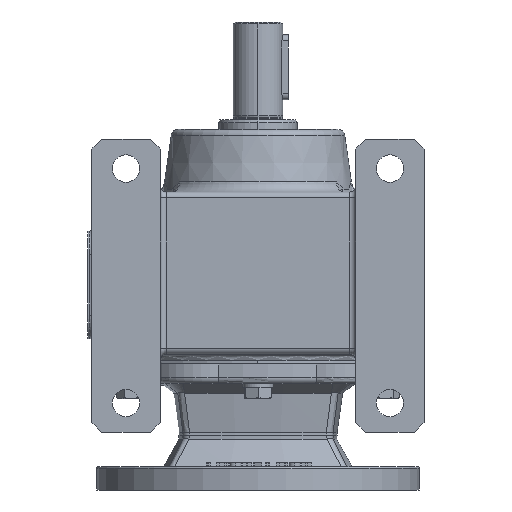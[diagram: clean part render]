
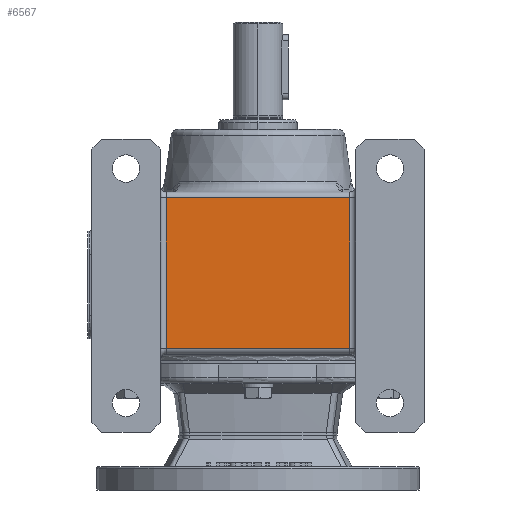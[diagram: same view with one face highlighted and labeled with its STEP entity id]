
A CAD part, front view. The second image highlights one B-rep face of the part: STEP entity #6567.
In plain terms, the highlighted planar face has unit normal (0, -1, 0).
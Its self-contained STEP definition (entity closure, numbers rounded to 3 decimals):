
#6567 = ADVANCED_FACE ( 'NONE', ( #47946 ), #36674, .F. ) ;
#12179 = EDGE_LOOP ( 'NONE', ( #22762, #22764, #22763, #22765 ) ) ;
#18342 = EDGE_CURVE ( 'NONE', #29513, #29485, #21267, .T. ) ;
#18343 = EDGE_CURVE ( 'NONE', #29515, #29513, #21272, .T. ) ;
#18344 = EDGE_CURVE ( 'NONE', #29485, #29483, #21278, .T. ) ;
#18345 = EDGE_CURVE ( 'NONE', #29483, #29515, #21283, .T. ) ;
#21267 = LINE ( 'NONE', #21269, #54920 ) ;
#21269 = CARTESIAN_POINT ( 'NONE',  ( 50., -77., -80. ) ) ;
#21270 = DIRECTION ( 'NONE',  ( 1., 0., 0. ) ) ;
#21272 = LINE ( 'NONE', #21274, #54921 ) ;
#21274 = CARTESIAN_POINT ( 'NONE',  ( -47., -77., 32. ) ) ;
#21276 = DIRECTION ( 'NONE',  ( 0., 0., -1. ) ) ;
#21278 = LINE ( 'NONE', #21279, #54922 ) ;
#21279 = CARTESIAN_POINT ( 'NONE',  ( 47., -77., 32. ) ) ;
#21281 = DIRECTION ( 'NONE',  ( 0., 0., 1. ) ) ;
#21283 = LINE ( 'NONE', #21285, #54923 ) ;
#21285 = CARTESIAN_POINT ( 'NONE',  ( -50., -77., -3. ) ) ;
#21286 = DIRECTION ( 'NONE',  ( -1., 0., 0. ) ) ;
#22762 = ORIENTED_EDGE ( 'NONE', *, *, #18343, .T. ) ;
#22763 = ORIENTED_EDGE ( 'NONE', *, *, #18344, .T. ) ;
#22764 = ORIENTED_EDGE ( 'NONE', *, *, #18342, .T. ) ;
#22765 = ORIENTED_EDGE ( 'NONE', *, *, #18345, .T. ) ;
#29483 = VERTEX_POINT ( 'NONE', #44230 ) ;
#29485 = VERTEX_POINT ( 'NONE', #44231 ) ;
#29513 = VERTEX_POINT ( 'NONE', #44245 ) ;
#29515 = VERTEX_POINT ( 'NONE', #44246 ) ;
#36674 = PLANE ( 'NONE',  #47954 ) ;
#36676 = CARTESIAN_POINT ( 'NONE',  ( 50., -77., 32. ) ) ;
#36677 = DIRECTION ( 'NONE',  ( 0., 1., 0. ) ) ;
#36679 = DIRECTION ( 'NONE',  ( 0., 0., 1. ) ) ;
#44230 = CARTESIAN_POINT ( 'NONE',  ( 47., -77., -3. ) ) ;
#44231 = CARTESIAN_POINT ( 'NONE',  ( 47., -77., -80. ) ) ;
#44245 = CARTESIAN_POINT ( 'NONE',  ( -47., -77., -80. ) ) ;
#44246 = CARTESIAN_POINT ( 'NONE',  ( -47., -77., -3. ) ) ;
#47946 = FACE_OUTER_BOUND ( 'NONE', #12179, .T. ) ;
#47954 = AXIS2_PLACEMENT_3D ( 'NONE', #36676, #36677, #36679 ) ;
#54920 = VECTOR ( 'NONE', #21270, 1000. ) ;
#54921 = VECTOR ( 'NONE', #21276, 1000. ) ;
#54922 = VECTOR ( 'NONE', #21281, 1000. ) ;
#54923 = VECTOR ( 'NONE', #21286, 1000. ) ;
